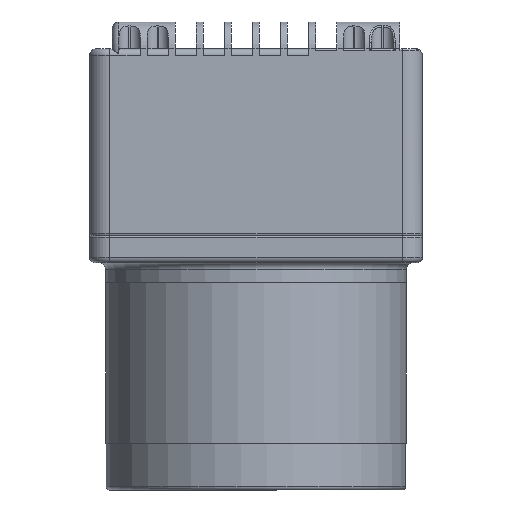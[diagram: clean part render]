
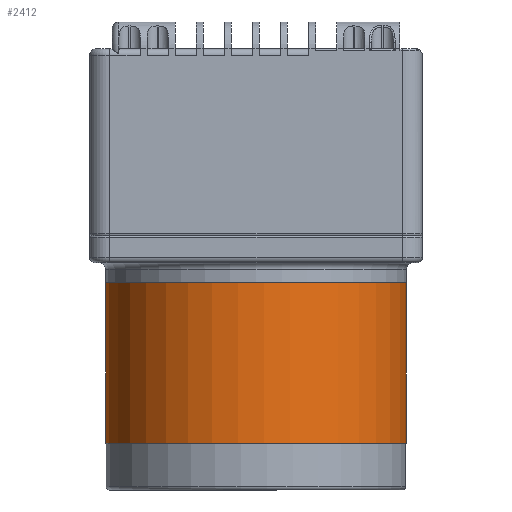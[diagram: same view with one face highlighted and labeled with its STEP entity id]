
A CAD part, front view. The second image highlights one B-rep face of the part: STEP entity #2412.
In plain terms, the highlighted cylindrical face has radius 22.5 mm (diameter 45 mm), a partial arc.
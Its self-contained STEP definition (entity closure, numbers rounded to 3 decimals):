
#610 = DIRECTION ( 'NONE',  ( 0., 0., 1. ) ) ;
#2412 = ADVANCED_FACE ( 'NONE', ( #43908 ), #52935, .T. ) ;
#2430 = CARTESIAN_POINT ( 'NONE',  ( 14.16, 14.105, 0. ) ) ;
#3024 = ORIENTED_EDGE ( 'NONE', *, *, #3269, .T. ) ;
#3269 = EDGE_CURVE ( 'NONE', #41066, #6816, #53301, .T. ) ;
#3283 = EDGE_CURVE ( 'NONE', #41066, #42730, #42922, .T. ) ;
#5464 = CARTESIAN_POINT ( 'NONE',  ( -9.84, 14.105, 22.5 ) ) ;
#6816 = VERTEX_POINT ( 'NONE', #17819 ) ;
#8330 = DIRECTION ( 'NONE',  ( -1., 0., 0. ) ) ;
#8756 = VECTOR ( 'NONE', #29284, 1000. ) ;
#9031 = DIRECTION ( 'NONE',  ( -1., 0., 0. ) ) ;
#9658 = AXIS2_PLACEMENT_3D ( 'NONE', #2430, #28881, #46882 ) ;
#9751 = AXIS2_PLACEMENT_3D ( 'NONE', #48838, #9031, #610 ) ;
#11734 = EDGE_LOOP ( 'NONE', ( #24344, #3024, #36420, #31538 ) ) ;
#17819 = CARTESIAN_POINT ( 'NONE',  ( 14.16, 14.105, 22.5 ) ) ;
#21153 = CARTESIAN_POINT ( 'NONE',  ( 14.16, 14.105, -22.5 ) ) ;
#23543 = CARTESIAN_POINT ( 'NONE',  ( 14.16, 14.105, 22.5 ) ) ;
#24344 = ORIENTED_EDGE ( 'NONE', *, *, #3283, .F. ) ;
#24677 = LINE ( 'NONE', #23543, #25731 ) ;
#25731 = VECTOR ( 'NONE', #37779, 1000. ) ;
#25778 = EDGE_CURVE ( 'NONE', #42730, #56310, #36242, .T. ) ;
#28881 = DIRECTION ( 'NONE',  ( -1., 0., 0. ) ) ;
#29284 = DIRECTION ( 'NONE',  ( -1., 0., 0. ) ) ;
#29847 = CARTESIAN_POINT ( 'NONE',  ( -9.84, 14.105, 0. ) ) ;
#31538 = ORIENTED_EDGE ( 'NONE', *, *, #25778, .F. ) ;
#36242 = CIRCLE ( 'NONE', #52967, 22.5 ) ;
#36420 = ORIENTED_EDGE ( 'NONE', *, *, #38501, .T. ) ;
#37779 = DIRECTION ( 'NONE',  ( -1., 0., 0. ) ) ;
#38501 = EDGE_CURVE ( 'NONE', #6816, #56310, #24677, .T. ) ;
#41066 = VERTEX_POINT ( 'NONE', #46183 ) ;
#42730 = VERTEX_POINT ( 'NONE', #55330 ) ;
#42922 = LINE ( 'NONE', #21153, #8756 ) ;
#43775 = DIRECTION ( 'NONE',  ( 0., 0., 1. ) ) ;
#43908 = FACE_OUTER_BOUND ( 'NONE', #11734, .T. ) ;
#46183 = CARTESIAN_POINT ( 'NONE',  ( 14.16, 14.105, -22.5 ) ) ;
#46882 = DIRECTION ( 'NONE',  ( 0., 0., 1. ) ) ;
#48838 = CARTESIAN_POINT ( 'NONE',  ( 14.16, 14.105, 0. ) ) ;
#52935 = CYLINDRICAL_SURFACE ( 'NONE', #9751, 22.5 ) ;
#52967 = AXIS2_PLACEMENT_3D ( 'NONE', #29847, #8330, #43775 ) ;
#53301 = CIRCLE ( 'NONE', #9658, 22.5 ) ;
#55330 = CARTESIAN_POINT ( 'NONE',  ( -9.84, 14.105, -22.5 ) ) ;
#56310 = VERTEX_POINT ( 'NONE', #5464 ) ;
